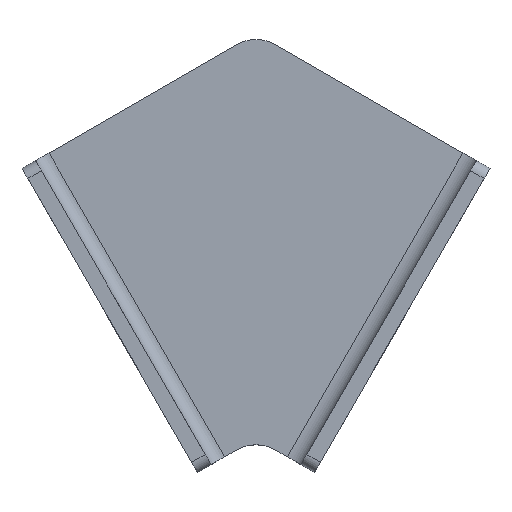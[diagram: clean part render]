
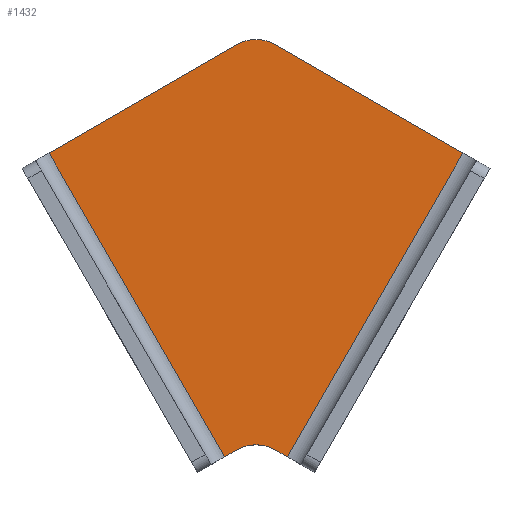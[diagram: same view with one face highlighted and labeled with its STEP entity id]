
A CAD part, top view. The second image highlights one B-rep face of the part: STEP entity #1432.
In plain terms, the highlighted planar face has unit normal (0, 0, 1).
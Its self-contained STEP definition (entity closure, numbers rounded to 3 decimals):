
#18 = CARTESIAN_POINT ( 'NONE',  ( 6.928, 4., 4. ) ) ;
#28 = CARTESIAN_POINT ( 'NONE',  ( 6.928, 4., 4. ) ) ;
#30 = DIRECTION ( 'NONE',  ( 0.866, -0.5, 0. ) ) ;
#46 = DIRECTION ( 'NONE',  ( 0.5, -0.866, 0. ) ) ;
#74 = EDGE_CURVE ( 'NONE', #1241, #87, #822, .T. ) ;
#87 = VERTEX_POINT ( 'NONE', #1589 ) ;
#93 = VECTOR ( 'NONE', #30, 1000. ) ;
#96 = DIRECTION ( 'NONE',  ( 0., 0., -1. ) ) ;
#114 = CARTESIAN_POINT ( 'NONE',  ( 0., 0., 4. ) ) ;
#144 = CARTESIAN_POINT ( 'NONE',  ( 0., 0., 4. ) ) ;
#156 = ORIENTED_EDGE ( 'NONE', *, *, #74, .T. ) ;
#169 = EDGE_CURVE ( 'NONE', #1031, #1534, #461, .T. ) ;
#171 = EDGE_LOOP ( 'NONE', ( #156, #765, #1101, #1484, #1061, #914, #719, #1001 ) ) ;
#211 = VECTOR ( 'NONE', #1172, 1000. ) ;
#244 = LINE ( 'NONE', #28, #1407 ) ;
#249 = LINE ( 'NONE', #369, #211 ) ;
#276 = CIRCLE ( 'NONE', #635, 10. ) ;
#304 = CARTESIAN_POINT ( 'NONE',  ( 75., 77.942, 4. ) ) ;
#313 = EDGE_CURVE ( 'NONE', #907, #1241, #276, .T. ) ;
#323 = EDGE_CURVE ( 'NONE', #1534, #691, #1224, .T. ) ;
#339 = VECTOR ( 'NONE', #717, 1000. ) ;
#369 = CARTESIAN_POINT ( 'NONE',  ( 15.572, -8.99, 4. ) ) ;
#401 = EDGE_CURVE ( 'NONE', #1331, #1031, #707, .T. ) ;
#402 = FACE_OUTER_BOUND ( 'NONE', #171, .T. ) ;
#461 = CIRCLE ( 'NONE', #1395, 10. ) ;
#498 = EDGE_CURVE ( 'NONE', #87, #1331, #249, .T. ) ;
#500 = VECTOR ( 'NONE', #1181, 1000. ) ;
#535 = CARTESIAN_POINT ( 'NONE',  ( 30., 0., 4. ) ) ;
#548 = DIRECTION ( 'NONE',  ( 0., 0., 1. ) ) ;
#609 = VECTOR ( 'NONE', #1064, 1000. ) ;
#635 = AXIS2_PLACEMENT_3D ( 'NONE', #904, #96, #1047 ) ;
#660 = CARTESIAN_POINT ( 'NONE',  ( 10., 5.774, 4. ) ) ;
#670 = CARTESIAN_POINT ( 'NONE',  ( 68.072, 81.942, 4. ) ) ;
#671 = AXIS2_PLACEMENT_3D ( 'NONE', #144, #548, #1492 ) ;
#691 = VERTEX_POINT ( 'NONE', #1545 ) ;
#707 = LINE ( 'NONE', #304, #339 ) ;
#717 = DIRECTION ( 'NONE',  ( -0.866, 0.5, 0. ) ) ;
#719 = ORIENTED_EDGE ( 'NONE', *, *, #1288, .T. ) ;
#765 = ORIENTED_EDGE ( 'NONE', *, *, #498, .T. ) ;
#793 = VERTEX_POINT ( 'NONE', #18 ) ;
#806 = CARTESIAN_POINT ( 'NONE',  ( 15., 101.036, 4. ) ) ;
#822 = LINE ( 'NONE', #535, #93 ) ;
#904 = CARTESIAN_POINT ( 'NONE',  ( 15., -2.887, 4. ) ) ;
#907 = VERTEX_POINT ( 'NONE', #660 ) ;
#914 = ORIENTED_EDGE ( 'NONE', *, *, #1227, .T. ) ;
#935 = DIRECTION ( 'NONE',  ( 1., 0., 0. ) ) ;
#976 = CARTESIAN_POINT ( 'NONE',  ( 10., 109.697, 4. ) ) ;
#1001 = ORIENTED_EDGE ( 'NONE', *, *, #313, .T. ) ;
#1031 = VERTEX_POINT ( 'NONE', #1201 ) ;
#1045 = CARTESIAN_POINT ( 'NONE',  ( 20., 5.774, 4. ) ) ;
#1047 = DIRECTION ( 'NONE',  ( 1., 0., 0. ) ) ;
#1061 = ORIENTED_EDGE ( 'NONE', *, *, #323, .T. ) ;
#1064 = DIRECTION ( 'NONE',  ( 0.866, 0.5, 0. ) ) ;
#1101 = ORIENTED_EDGE ( 'NONE', *, *, #401, .T. ) ;
#1172 = DIRECTION ( 'NONE',  ( 0.5, 0.866, 0. ) ) ;
#1181 = DIRECTION ( 'NONE',  ( -0.866, -0.5, 0. ) ) ;
#1201 = CARTESIAN_POINT ( 'NONE',  ( 20., 109.697, 4. ) ) ;
#1224 = LINE ( 'NONE', #1693, #500 ) ;
#1227 = EDGE_CURVE ( 'NONE', #691, #793, #244, .T. ) ;
#1241 = VERTEX_POINT ( 'NONE', #1045 ) ;
#1288 = EDGE_CURVE ( 'NONE', #793, #907, #1631, .T. ) ;
#1331 = VERTEX_POINT ( 'NONE', #670 ) ;
#1395 = AXIS2_PLACEMENT_3D ( 'NONE', #806, #1723, #935 ) ;
#1407 = VECTOR ( 'NONE', #46, 1000. ) ;
#1432 = ADVANCED_FACE ( 'NONE', ( #402 ), #1611, .T. ) ;
#1484 = ORIENTED_EDGE ( 'NONE', *, *, #169, .T. ) ;
#1492 = DIRECTION ( 'NONE',  ( 1., 0., 0. ) ) ;
#1534 = VERTEX_POINT ( 'NONE', #976 ) ;
#1545 = CARTESIAN_POINT ( 'NONE',  ( -38.072, 81.942, 4. ) ) ;
#1589 = CARTESIAN_POINT ( 'NONE',  ( 23.072, 4., 4. ) ) ;
#1611 = PLANE ( 'NONE',  #671 ) ;
#1631 = LINE ( 'NONE', #114, #609 ) ;
#1693 = CARTESIAN_POINT ( 'NONE',  ( -45., 77.942, 4. ) ) ;
#1723 = DIRECTION ( 'NONE',  ( 0., 0., 1. ) ) ;
